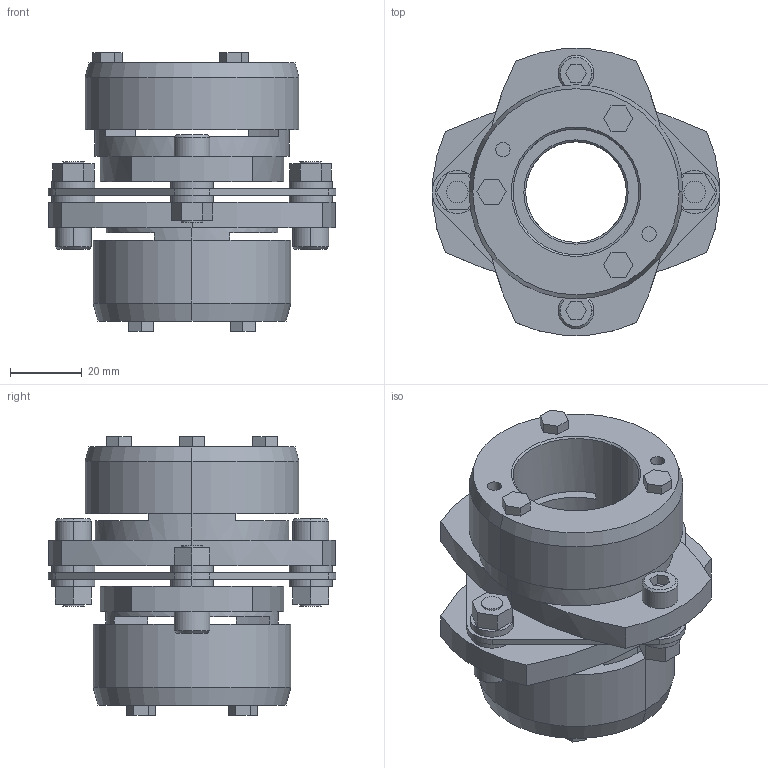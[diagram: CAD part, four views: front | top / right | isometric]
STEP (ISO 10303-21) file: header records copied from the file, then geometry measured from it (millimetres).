
FILE_DESCRIPTION((''),'2;1');
FILE_NAME('LCS-80T7-28×35.stp','2011-09-12T16:49:33',(''),(''),'AutoCAD STEP 2000i','AutoCAD 2000i',', , ');
FILE_SCHEMA(('CONFIG_CONTROL_DESIGN'));
Length unit declared in the file: millimetre
Products named in the file (13): LCS-80T7-28×35; 忣兜1; LC80T7-T035; LC80T7-T032; LC80T7-T030; LC80T7-T028-1; LC80T7-T028; LC80T7-T024; LC80T7-T022; LC80T7-T019; LC80T7-T017-1; LC80T7-T017; LCS80-ITA
Assembly tree (12 placements, depth 2):
  LCS-80T7-28×35
    忣兜1
    LC80T7-T035
    LC80T7-T032
    LC80T7-T030
    LC80T7-T028-1
    LC80T7-T028
    LC80T7-T024
    LC80T7-T022
    LC80T7-T019
    LC80T7-T017-1
    LC80T7-T017
    LCS80-ITA
Bounding box: 80 x 79.95 x 77.35 mm (x, y, z)
Volume: 130577.7 mm3; surface area: 41984.5 mm2
Topology: 1 solids, 1 shells, 242 faces, 594 edges, 388 vertices
Faces by surface type: plane 142, cylinder 80, cone 20
Entity records: 7449 total; most frequent: DIRECTION 1308, CARTESIAN_POINT 1237, ORIENTED_EDGE 1188, EDGE_CURVE 594, AXIS2_PLACEMENT_3D 459, VECTOR 390, LINE 390, VERTEX_POINT 388
